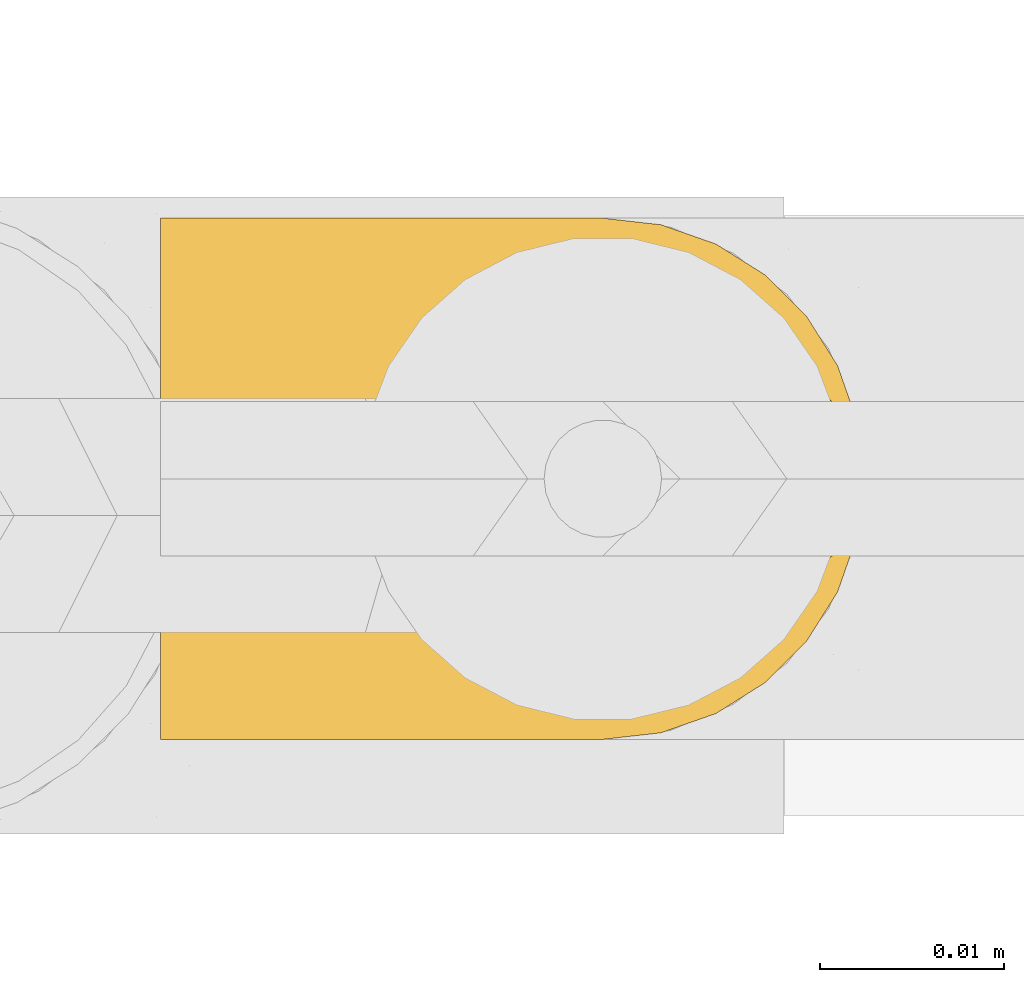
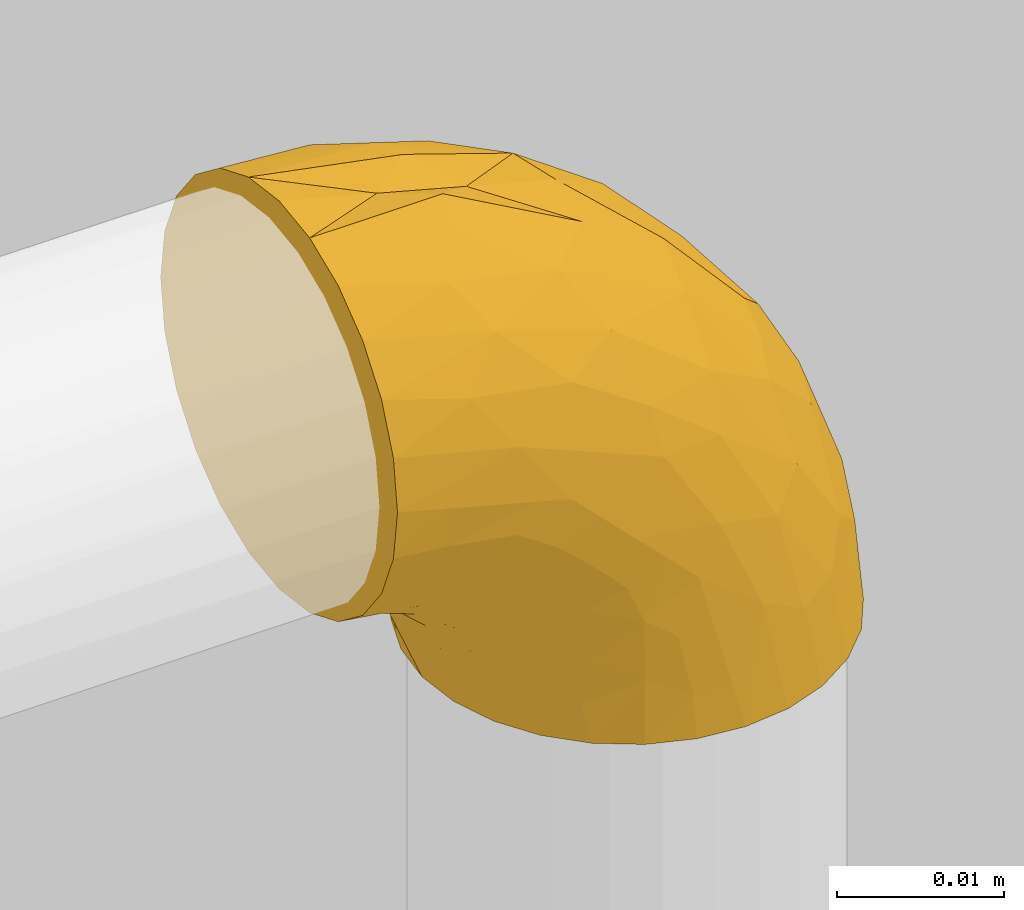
# One storey, part 11 of 30: 1 covering.
"""IFC2X3 building model written with IfcOpenShell, lengths in metres."""

from ifc_helpers import new_model, entity, si_unit, converted_unit, derived_unit, direction, frame, origin, place, context, subcontext, project, spatial, faceted_brep, material, type_object, element, save


model = new_model("IFC2X3")

# Units and contexts
model_context = context("Model", 3, precision=1e-05, world=origin(), true_north=direction((6.123031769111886e-17, 1.0)))
body_context = subcontext(model_context, "Body", "Model", "MODEL_VIEW")
ifc_project = project(units=[si_unit("LENGTHUNIT", "METRE"), si_unit("AREAUNIT", "SQUARE_METRE"), si_unit("VOLUMEUNIT", "CUBIC_METRE"), converted_unit("PLANEANGLEUNIT", "DEGREE", entity("IfcPlaneAngleMeasure", 0.017453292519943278), si_unit("PLANEANGLEUNIT", "RADIAN"), dimensions=[0, 0, 0, 0, 0, 0, 0]), si_unit("MASSUNIT", "GRAM", prefix="KILO"), derived_unit("MASSDENSITYUNIT", [(si_unit("MASSUNIT", "GRAM", prefix="KILO"), 1), (si_unit("LENGTHUNIT", "METRE"), -3)]), derived_unit("IONCONCENTRATIONUNIT", [(si_unit("MASSUNIT", "GRAM", prefix="KILO"), 1), (si_unit("LENGTHUNIT", "METRE"), -3)]), derived_unit("MOMENTOFINERTIAUNIT", [(si_unit("LENGTHUNIT", "METRE"), 4)]), si_unit("TIMEUNIT", "SECOND"), si_unit("FREQUENCYUNIT", "HERTZ"), si_unit("THERMODYNAMICTEMPERATUREUNIT", "DEGREE_CELSIUS"), derived_unit("THERMALTRANSMITTANCEUNIT", [(si_unit("MASSUNIT", "GRAM", prefix="KILO"), 1), (si_unit("THERMODYNAMICTEMPERATUREUNIT", "KELVIN"), -1), (si_unit("TIMEUNIT", "SECOND"), -3)]), derived_unit("THERMALCONDUCTANCEUNIT", [(si_unit("MASSUNIT", "GRAM", prefix="KILO"), 1), (si_unit("THERMODYNAMICTEMPERATUREUNIT", "KELVIN"), -1), (si_unit("TIMEUNIT", "SECOND"), -3), (si_unit("LENGTHUNIT", "METRE"), 1)]), derived_unit("VOLUMETRICFLOWRATEUNIT", [(si_unit("LENGTHUNIT", "METRE", prefix="DECI"), 3), (si_unit("TIMEUNIT", "SECOND"), -1)]), derived_unit("MASSFLOWRATEUNIT", [(si_unit("MASSUNIT", "GRAM", prefix="KILO"), 1), (si_unit("TIMEUNIT", "SECOND"), -1)]), derived_unit("ROTATIONALFREQUENCYUNIT", [(si_unit("TIMEUNIT", "SECOND"), -1)]), si_unit("ELECTRICCURRENTUNIT", "AMPERE"), si_unit("ELECTRICVOLTAGEUNIT", "VOLT"), si_unit("POWERUNIT", "WATT"), si_unit("FORCEUNIT", "NEWTON", prefix="KILO"), si_unit("ILLUMINANCEUNIT", "LUX"), si_unit("LUMINOUSFLUXUNIT", "LUMEN"), si_unit("LUMINOUSINTENSITYUNIT", "CANDELA"), si_unit("ENERGYUNIT", "JOULE"), derived_unit("USERDEFINED", [(si_unit("MASSUNIT", "GRAM", prefix="KILO"), -1), (si_unit("LENGTHUNIT", "METRE"), -2), (si_unit("TIMEUNIT", "SECOND"), 3), (si_unit("LUMINOUSFLUXUNIT", "LUMEN"), 1)]), derived_unit("USERDEFINED", [(si_unit("MASSUNIT", "GRAM", prefix="KILO"), 1), (si_unit("TIMEUNIT", "SECOND"), -3), (si_unit("LENGTHUNIT", "METRE"), 3), (si_unit("ELECTRICCURRENTUNIT", "AMPERE"), -2)]), derived_unit("SOUNDPOWERUNIT", [(si_unit("MASSUNIT", "GRAM", prefix="KILO"), 1), (si_unit("TIMEUNIT", "SECOND"), -3), (si_unit("LENGTHUNIT", "METRE"), 2)]), derived_unit("SOUNDPRESSUREUNIT", [(si_unit("MASSUNIT", "GRAM", prefix="KILO"), 1), (si_unit("LENGTHUNIT", "METRE"), -1), (si_unit("TIMEUNIT", "SECOND"), -2)]), derived_unit("LINEARVELOCITYUNIT", [(si_unit("LENGTHUNIT", "METRE"), 1), (si_unit("TIMEUNIT", "SECOND"), -1)]), si_unit("PRESSUREUNIT", "PASCAL"), derived_unit("USERDEFINED", [(si_unit("MASSUNIT", "GRAM", prefix="KILO"), 1), (si_unit("LENGTHUNIT", "METRE"), -2), (si_unit("TIMEUNIT", "SECOND"), -2)]), derived_unit("LINEARFORCEUNIT", [(si_unit("MASSUNIT", "GRAM", prefix="KILO"), 1), (si_unit("TIMEUNIT", "SECOND"), -2)]), derived_unit("PLANARFORCEUNIT", [(si_unit("MASSUNIT", "GRAM", prefix="KILO"), 1), (si_unit("LENGTHUNIT", "METRE"), -1), (si_unit("TIMEUNIT", "SECOND"), -2)]), derived_unit("SPECIFICHEATCAPACITYUNIT", [(si_unit("THERMODYNAMICTEMPERATUREUNIT", "KELVIN"), -1), (si_unit("LENGTHUNIT", "METRE"), 2), (si_unit("TIMEUNIT", "SECOND"), -2)]), derived_unit("HEATFLUXDENSITYUNIT", [(si_unit("MASSUNIT", "GRAM", prefix="KILO"), 1), (si_unit("TIMEUNIT", "SECOND"), -3)]), derived_unit("HEATINGVALUEUNIT", [(si_unit("LENGTHUNIT", "METRE"), 2), (si_unit("TIMEUNIT", "SECOND"), -2)]), derived_unit("VAPORPERMEABILITYUNIT", [(si_unit("LENGTHUNIT", "METRE"), -1), (si_unit("TIMEUNIT", "SECOND"), 1)]), derived_unit("DYNAMICVISCOSITYUNIT", [(si_unit("MASSUNIT", "GRAM", prefix="KILO"), 1), (si_unit("TIMEUNIT", "SECOND"), -1), (si_unit("LENGTHUNIT", "METRE"), -1)]), derived_unit("THERMALEXPANSIONCOEFFICIENTUNIT", [(si_unit("THERMODYNAMICTEMPERATUREUNIT", "KELVIN"), -1)]), derived_unit("MODULUSOFELASTICITYUNIT", [(si_unit("MASSUNIT", "GRAM", prefix="KILO"), 1), (si_unit("LENGTHUNIT", "METRE"), -1), (si_unit("TIMEUNIT", "SECOND"), -2)]), derived_unit("ISOTHERMALMOISTURECAPACITYUNIT", [(si_unit("MASSUNIT", "GRAM", prefix="KILO"), -1), (si_unit("LENGTHUNIT", "METRE"), 3)]), derived_unit("MOISTUREDIFFUSIVITYUNIT", [(si_unit("TIMEUNIT", "SECOND"), -1), (si_unit("LENGTHUNIT", "METRE"), 2)]), derived_unit("MASSPERLENGTHUNIT", [(si_unit("MASSUNIT", "GRAM", prefix="KILO"), 1), (si_unit("LENGTHUNIT", "METRE"), -1)]), derived_unit("THERMALRESISTANCEUNIT", [(si_unit("MASSUNIT", "GRAM", prefix="KILO"), -1), (si_unit("TIMEUNIT", "SECOND"), 3), (si_unit("THERMODYNAMICTEMPERATUREUNIT", "KELVIN"), 1)]), derived_unit("ACCELERATIONUNIT", [(si_unit("LENGTHUNIT", "METRE"), 1), (si_unit("TIMEUNIT", "SECOND"), -2)]), derived_unit("ANGULARVELOCITYUNIT", [(si_unit("TIMEUNIT", "SECOND"), -1), (si_unit("PLANEANGLEUNIT", "RADIAN"), 1)]), derived_unit("LINEARSTIFFNESSUNIT", [(si_unit("MASSUNIT", "GRAM", prefix="KILO"), 1), (si_unit("TIMEUNIT", "SECOND"), -2)]), derived_unit("WARPINGCONSTANTUNIT", [(si_unit("LENGTHUNIT", "METRE"), 6)]), derived_unit("LINEARMOMENTUNIT", [(si_unit("MASSUNIT", "GRAM", prefix="KILO"), 1), (si_unit("LENGTHUNIT", "METRE"), 1), (si_unit("TIMEUNIT", "SECOND"), -2)]), derived_unit("TORQUEUNIT", [(si_unit("MASSUNIT", "GRAM", prefix="KILO"), 1), (si_unit("LENGTHUNIT", "METRE"), 2), (si_unit("TIMEUNIT", "SECOND"), -2)])], contexts=[model_context])

# Site, building, storey
site_placement = place(None, origin())
site = spatial("IfcSite", under=ifc_project, at=site_placement, Name="Default", CompositionType="ELEMENT")
building_placement = place(site_placement, origin())
building = spatial("IfcBuilding", under=site, at=building_placement, CompositionType="ELEMENT")
storey_placement = place(building_placement, origin())
storey = spatial("IfcBuildingStorey", under=building, at=storey_placement, Name="Niveau 0", CompositionType="ELEMENT", Elevation=-1.949160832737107e-14)

# Covering
ifc_material = material(Name="Matériau du rendu 255-255-255")
covering_type = type_object("IfcCoveringType", Name="Isolation des canalisations:Par défaut", PredefinedType="INSULATION")
covering_placement = place(storey_placement, frame((-20.902603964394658, 1.361257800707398, 0.10913885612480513)))
element("IfcCovering", 1, at=covering_placement, inside=storey, type_object=covering_type, material=ifc_material, Name="Isolation des canalisations:Par défaut", ObjectType="Isolation des canalisations:Par défaut", PredefinedType="INSULATION", context=body_context, shape_type="Brep", body=[
    faceted_brep([(0.02885664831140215, 0.029638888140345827, -0.03989527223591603), (0.031858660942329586, 0.028587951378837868, -0.03989527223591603), (0.03455099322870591, 0.02689555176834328, -0.03989527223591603), (0.03679892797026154, 0.02464675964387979, -0.03989527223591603), (0.03849001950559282, 0.02195436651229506, -0.03989527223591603), (0.039539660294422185, 0.018953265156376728, -0.03989527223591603), (0.03989527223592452, 0.01579527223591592, -0.03989527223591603), (0.03953888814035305, 0.012633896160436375, -0.03989527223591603), (0.038487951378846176, 0.009631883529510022, -0.03989527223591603), (0.036795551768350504, 0.0069395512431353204, -0.03989527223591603), (0.0345467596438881, 0.004691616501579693, -0.03989527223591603), (0.03185436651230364, 0.0030005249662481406, -0.03989527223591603), (0.028853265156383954, 0.0019508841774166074, -0.03989527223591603), (0.025695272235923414, 0.0015952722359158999, -0.03989527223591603), (0.022533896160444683, 0.0019516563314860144, -0.03989527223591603), (0.019531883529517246, 0.0030025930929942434, -0.03989527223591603), (0.016839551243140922, 0.00469499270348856, -0.03989527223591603), (0.014591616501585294, 0.006943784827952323, -0.03989527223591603), (0.01290052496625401, 0.009636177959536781, -0.03989527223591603), (0.011850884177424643, 0.012637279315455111, -0.03989527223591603), (0.011495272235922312, 0.01579527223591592, -0.03989527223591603), (0.01185165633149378, 0.01895664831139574, -0.03989527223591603), (0.012902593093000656, 0.02195866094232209, -0.03989527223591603), (0.014594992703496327, 0.02465099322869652, -0.03989527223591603), (0.016843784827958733, 0.02689892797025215, -0.03989527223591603), (0.019536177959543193, 0.0285900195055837, -0.03989527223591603), (0.02253727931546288, 0.029639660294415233, -0.03989527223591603), (0.025695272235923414, 0.02999527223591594, -0.03989527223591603), (0.0015952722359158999, 0.012120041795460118, -0.0295114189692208), (0.0015952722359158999, 0.00869527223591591, -0.02809283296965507), (0.0015952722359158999, 0.005754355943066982, -0.025836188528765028), (0.0015952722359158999, 0.0034977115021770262, -0.022895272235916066), (0.0015952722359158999, 0.002079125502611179, -0.01947050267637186), (0.0015952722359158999, 0.0015952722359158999, -0.015795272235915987), (0.0015952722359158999, 0.002079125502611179, -0.012120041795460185), (0.0015952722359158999, 0.0034977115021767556, -0.008695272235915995), (0.0015952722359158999, 0.005754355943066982, -0.005754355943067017), (0.0015952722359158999, 0.00869527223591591, -0.0034977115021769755), (0.0015952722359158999, 0.012120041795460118, -0.002079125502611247), (0.0015952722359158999, 0.01579527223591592, -0.0015952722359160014), (0.0015952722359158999, 0.019470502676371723, -0.002079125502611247), (0.0015952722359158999, 0.02289527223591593, -0.0034977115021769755), (0.0015952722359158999, 0.025836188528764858, -0.005754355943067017), (0.0015952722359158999, 0.028092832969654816, -0.008695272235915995), (0.0015952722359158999, 0.029511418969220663, -0.012120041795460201), (0.0015952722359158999, 0.02999527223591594, -0.015795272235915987), (0.0015952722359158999, 0.029511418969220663, -0.019470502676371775), (0.0015952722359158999, 0.028092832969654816, -0.022895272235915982), (0.0015952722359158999, 0.025836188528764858, -0.02583618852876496), (0.0015952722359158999, 0.02289527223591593, -0.028092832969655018), (0.0015952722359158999, 0.019470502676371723, -0.029511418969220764), (0.0015952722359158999, 0.01579527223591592, -0.02999527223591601), (0.02704820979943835, 0.029733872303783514, -0.031466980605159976), (0.01155834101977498, 0.018166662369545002, -0.00312038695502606), (0.008375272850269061, 0.01579527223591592, -0.0034119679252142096), (0.014560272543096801, 0.01579527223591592, -0.005069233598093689), (0.014682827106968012, 0.028252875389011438, -0.011886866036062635), (0.010357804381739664, 0.02654090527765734, -0.007682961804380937), (0.01863458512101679, 0.026180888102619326, -0.010723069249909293), (0.024053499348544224, 0.02966220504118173, -0.024625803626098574), (0.022466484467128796, 0.02999527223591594, -0.027845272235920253), (0.0380723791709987, 0.02008831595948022, -0.030629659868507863), (0.03458658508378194, 0.022434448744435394, -0.023927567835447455), (0.03564178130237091, 0.01950717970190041, -0.023459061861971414), (0.020408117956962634, 0.02934471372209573, -0.01868835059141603), (0.018055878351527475, 0.02999527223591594, -0.023434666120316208), (0.01636472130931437, 0.023549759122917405, -0.007069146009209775), (0.010797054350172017, 0.02080360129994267, -0.0036578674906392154), (0.020172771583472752, 0.019923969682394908, -0.007105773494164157), (0.0074916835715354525, 0.028644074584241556, -0.01033204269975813), (0.010237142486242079, 0.029677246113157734, -0.014222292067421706), (0.02558294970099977, 0.022802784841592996, -0.012450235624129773), (0.013645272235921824, 0.02999527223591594, -0.019024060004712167), (0.010976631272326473, 0.02999527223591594, -0.01830899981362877), (0.008307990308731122, 0.02999527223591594, -0.017593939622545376), (0.0076202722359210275, 0.02999527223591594, -0.017409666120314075), (0.0049516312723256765, 0.02999527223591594, -0.01669460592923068), (0.025175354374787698, 0.028908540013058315, -0.022088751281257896), (0.021556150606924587, 0.02801894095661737, -0.01575171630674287), (0.026742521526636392, 0.027726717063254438, -0.02043204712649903), (0.03307723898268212, 0.02742768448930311, -0.0329260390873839), (0.034991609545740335, 0.02526771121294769, -0.030551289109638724), (0.0372977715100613, 0.02297391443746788, -0.03305521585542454), (0.03642131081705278, 0.01579527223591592, -0.026930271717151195), (0.03039575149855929, 0.028931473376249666, -0.03354339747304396), (0.02873854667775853, 0.02856587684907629, -0.02640905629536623), (0.008485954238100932, 0.02404225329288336, -0.004907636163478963), (0.02479593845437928, 0.02999527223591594, -0.03653891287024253), (0.024080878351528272, 0.02999527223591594, -0.03387027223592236), (0.023896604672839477, 0.02999527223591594, -0.033182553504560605), (0.023181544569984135, 0.02999527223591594, -0.030513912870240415), (0.0312190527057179, 0.02659257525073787, -0.024636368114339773), (0.030558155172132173, 0.024430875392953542, -0.019588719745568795), (0.03807857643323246, 0.01579527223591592, -0.03311527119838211), (0.025554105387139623, 0.026199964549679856, -0.016105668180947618), (0.02775465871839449, 0.01579527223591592, -0.013735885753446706), (0.03476404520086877, 0.01579527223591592, -0.02074527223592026), (0.031643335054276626, 0.019534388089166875, -0.01696345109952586), (0.02074527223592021, 0.01579527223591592, -0.00672649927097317), (0.02639706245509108, 0.01990856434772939, -0.011513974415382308), (0.031308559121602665, 0.02209913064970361, -0.01814369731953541), (0.01585057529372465, 0.02999527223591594, -0.02122936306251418), (0.02026118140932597, 0.02999527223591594, -0.02563996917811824), (0.019055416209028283, 0.029377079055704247, -0.030232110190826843), (0.01941299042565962, 0.0288294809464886, -0.03504783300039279), (0.0163241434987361, 0.02753992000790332, -0.033347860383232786), (0.01008373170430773, 0.029670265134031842, -0.0206006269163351), (0.005334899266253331, 0.029488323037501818, -0.01990237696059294), (0.006124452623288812, 0.025730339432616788, -0.026696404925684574), (0.008851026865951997, 0.02535629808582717, -0.028391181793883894), (0.00699704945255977, 0.022650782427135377, -0.02955694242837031), (0.011972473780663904, 0.028333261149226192, -0.02588636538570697), (0.012855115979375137, 0.029588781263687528, -0.022493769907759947), (0.015604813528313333, 0.02950996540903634, -0.025039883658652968), (0.003990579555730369, 0.021863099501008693, -0.028891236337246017), (0.006747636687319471, 0.02905725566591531, -0.0215816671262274), (0.00477823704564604, 0.02758119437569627, -0.024031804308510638), (0.007441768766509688, 0.019266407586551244, -0.03137801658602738), (0.008595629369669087, 0.01579527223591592, -0.03289491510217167), (0.005095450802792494, 0.01579527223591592, -0.03144509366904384), (0.009650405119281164, 0.01983888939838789, -0.033178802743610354), (0.022275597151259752, 0.02964120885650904, -0.036552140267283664), (0.010954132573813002, 0.018973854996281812, -0.03568980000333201), (0.011348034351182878, 0.021894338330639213, -0.03423455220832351), (0.012210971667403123, 0.021143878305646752, -0.03722732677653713), (0.01382361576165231, 0.02452710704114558, -0.03578073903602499), (0.01204534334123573, 0.024465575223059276, -0.03241002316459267), (0.009717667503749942, 0.02276166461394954, -0.0314376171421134), (0.01625427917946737, 0.026659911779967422, -0.036925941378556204), (0.021842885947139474, 0.029708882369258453, -0.03340468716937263), (0.004526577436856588, 0.018798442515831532, -0.030103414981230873), (0.010045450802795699, 0.01579527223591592, -0.03639509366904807), (0.015405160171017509, 0.0284623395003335, -0.028851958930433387), (0.01410895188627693, 0.026609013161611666, -0.031813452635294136), (0.008820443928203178, 0.02746848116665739, -0.0256033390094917), (0.008460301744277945, 0.028613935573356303, -0.023265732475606), (0.01778048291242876, 0.029539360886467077, -0.027264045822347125), (0.011880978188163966, 0.026220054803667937, -0.029734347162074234), (0.009715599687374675, 0.008832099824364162, -0.031438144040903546), (0.007441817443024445, 0.012323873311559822, -0.03137796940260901), (0.009649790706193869, 0.011756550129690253, -0.033180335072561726), (0.024795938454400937, 0.0015952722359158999, -0.03653891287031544), (0.0048062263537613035, 0.011626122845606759, -0.029871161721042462), (0.010976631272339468, 0.0015952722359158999, -0.018308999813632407), (0.010083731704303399, 0.001920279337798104, -0.02060062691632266), (0.013645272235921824, 0.0015952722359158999, -0.019024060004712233), (0.004199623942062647, 0.009216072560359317, -0.028677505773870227), (0.005334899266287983, 0.002102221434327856, -0.01990237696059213), (0.0049516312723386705, 0.0015952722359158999, -0.016694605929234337), (0.01187705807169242, 0.005375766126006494, -0.02973849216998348), (0.015398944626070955, 0.0031321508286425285, -0.02885664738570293), (0.011966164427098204, 0.0032613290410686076, -0.025891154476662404), (0.008460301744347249, 0.002976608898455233, -0.023265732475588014), (0.006747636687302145, 0.0025332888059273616, -0.02158166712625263), (0.0047782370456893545, 0.004009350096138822, -0.02403180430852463), (0.006123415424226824, 0.005860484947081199, -0.02669633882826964), (0.008848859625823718, 0.006235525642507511, -0.028391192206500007), (0.006993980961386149, 0.008940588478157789, -0.02955585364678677), (0.012209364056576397, 0.010451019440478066, -0.03722818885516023), (0.01095411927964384, 0.012619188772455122, -0.03569117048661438), (0.019407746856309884, 0.0027633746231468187, -0.03504891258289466), (0.022272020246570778, 0.0019500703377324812, -0.03655023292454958), (0.013820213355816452, 0.007068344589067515, -0.035782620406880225), (0.024080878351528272, 0.0015952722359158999, -0.03387027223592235), (0.02389660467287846, 0.0015952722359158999, -0.0331825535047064), (0.01905004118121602, 0.0022143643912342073, -0.030228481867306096), (0.016318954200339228, 0.004054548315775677, -0.033350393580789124), (0.016249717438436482, 0.004934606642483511, -0.03692719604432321), (0.01134650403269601, 0.009701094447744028, -0.034236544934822), (0.01204243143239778, 0.007130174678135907, -0.032412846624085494), (0.0088163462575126, 0.004122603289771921, -0.025602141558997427), (0.012859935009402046, 0.002001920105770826, -0.022497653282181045), (0.02318154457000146, 0.0015952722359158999, -0.03051391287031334), (0.022466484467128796, 0.0015952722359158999, -0.027845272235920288), (0.021177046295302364, 0.0019021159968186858, -0.03186606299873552), (0.01410454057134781, 0.004986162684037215, -0.0318166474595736), (0.017767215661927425, 0.002056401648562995, -0.027279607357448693), (0.018055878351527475, 0.0015952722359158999, -0.02343466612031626), (0.01560782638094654, 0.0020828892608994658, -0.025054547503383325), (0.020261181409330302, 0.0015952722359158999, -0.025639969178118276), (0.01585057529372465, 0.0015952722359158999, -0.02122936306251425), (0.008307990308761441, 0.0015952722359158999, -0.017593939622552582), (0.0076202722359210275, 0.0015952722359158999, -0.017409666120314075), (0.010356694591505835, 0.0050495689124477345, -0.00768274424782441), (0.014679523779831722, 0.0033374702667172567, -0.01188572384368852), (0.018634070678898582, 0.005409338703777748, -0.010723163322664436), (0.0330731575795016, 0.004160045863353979, -0.03292620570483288), (0.010237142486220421, 0.0019132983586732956, -0.014222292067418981), (0.025592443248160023, 0.008788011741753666, -0.012458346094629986), (0.03164297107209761, 0.012054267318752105, -0.016963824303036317), (0.02646632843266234, 0.012737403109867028, -0.01120882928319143), (0.03055609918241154, 0.007155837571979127, -0.019590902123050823), (0.031215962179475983, 0.004994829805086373, -0.024638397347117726), (0.034988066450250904, 0.00631902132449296, -0.030551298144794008), (0.00748967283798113, 0.0029463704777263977, -0.010331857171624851), (0.010798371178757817, 0.010787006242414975, -0.0036581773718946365), (0.016368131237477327, 0.008041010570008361, -0.007070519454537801), (0.020173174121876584, 0.011666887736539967, -0.007105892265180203), (0.028735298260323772, 0.0030229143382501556, -0.026410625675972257), (0.02498476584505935, 0.00344376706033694, -0.01938921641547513), (0.024053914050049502, 0.0019283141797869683, -0.024626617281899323), (0.03807109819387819, 0.01149853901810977, -0.03062937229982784), (0.027046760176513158, 0.0018563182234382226, -0.03146839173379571), (0.008487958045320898, 0.007548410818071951, -0.004907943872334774), (0.037295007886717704, 0.008612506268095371, -0.03305363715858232), (0.034584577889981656, 0.009151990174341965, -0.02392840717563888), (0.02041042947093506, 0.002246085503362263, -0.018689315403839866), (0.02000326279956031, 0.003193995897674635, -0.015393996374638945), (0.011558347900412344, 0.013423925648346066, -0.0031203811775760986), (0.025551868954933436, 0.005387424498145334, -0.01610823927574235), (0.030392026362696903, 0.002657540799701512, -0.03354382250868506), (0.03582275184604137, 0.012727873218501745, -0.023469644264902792), (0.03130512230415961, 0.009488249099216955, -0.018141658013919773)], [[[0, 1, 2, 3, 4, 5, 6, 7, 8, 9, 10, 11, 12, 13, 14, 15, 16, 17, 18, 19, 20, 21, 22, 23, 24, 25, 26, 27]], [[28, 29, 30, 31, 32, 33, 34, 35, 36, 37, 38, 39, 40, 41, 42, 43, 44, 45, 46, 47, 48, 49, 50, 51]], [[27, 52, 0]], [[53, 54, 55]], [[56, 57, 58]], [[59, 52, 60]], [[61, 62, 63]], [[64, 59, 65]], [[66, 67, 68]], [[57, 56, 69]], [[70, 45, 44]], [[43, 42, 57]], [[66, 68, 71]], [[70, 72, 73, 74, 75, 76, 45]], [[44, 43, 69]], [[77, 78, 79]], [[80, 81, 2]], [[41, 40, 67]], [[82, 62, 61]], [[2, 81, 3]], [[63, 83, 61]], [[61, 5, 4]], [[84, 52, 85]], [[40, 39, 54]], [[58, 78, 56]], [[66, 86, 67]], [[86, 42, 41]], [[52, 27, 87, 88, 89, 90, 60]], [[91, 92, 81]], [[70, 64, 72]], [[80, 2, 1]], [[93, 5, 61]], [[1, 0, 84]], [[93, 6, 5]], [[81, 80, 91]], [[4, 82, 61]], [[54, 53, 40]], [[82, 4, 3]], [[68, 67, 53]], [[86, 57, 42]], [[58, 94, 78]], [[69, 70, 44]], [[64, 70, 56]], [[78, 64, 56]], [[85, 52, 59]], [[3, 81, 82]], [[62, 82, 81]], [[84, 80, 1]], [[91, 80, 85]], [[79, 91, 85]], [[91, 94, 92]], [[95, 96, 97]], [[94, 58, 71]], [[98, 95, 99]], [[99, 95, 97]], [[92, 62, 81]], [[92, 100, 62]], [[68, 99, 71]], [[52, 84, 0]], [[80, 84, 85]], [[67, 86, 41]], [[57, 86, 66]], [[57, 66, 58]], [[71, 58, 66]], [[64, 65, 101, 72]], [[77, 79, 85]], [[59, 60, 102, 65]], [[94, 71, 92]], [[71, 99, 100]], [[68, 53, 55]], [[98, 68, 55]], [[40, 53, 67]], [[71, 100, 92]], [[63, 100, 97]], [[57, 69, 43]], [[70, 69, 56]], [[100, 63, 62]], [[83, 93, 61]], [[79, 78, 94]], [[91, 79, 94]], [[85, 59, 77]], [[59, 64, 77]], [[78, 77, 64]], [[99, 68, 98]], [[100, 99, 97]], [[97, 96, 63]], [[83, 63, 96]], [[103, 104, 105]], [[72, 106, 73]], [[47, 46, 107]], [[107, 46, 76]], [[108, 109, 110]], [[111, 112, 113]], [[108, 110, 114]], [[47, 115, 116]], [[117, 118, 119]], [[108, 49, 48]], [[118, 117, 120]], [[25, 121, 26]], [[49, 114, 50]], [[122, 123, 124]], [[124, 125, 22]], [[126, 123, 127]], [[128, 104, 24]], [[129, 103, 60]], [[24, 104, 25]], [[27, 26, 87]], [[123, 120, 127]], [[130, 117, 119]], [[107, 76, 75, 74, 73]], [[131, 118, 122, 20]], [[105, 132, 103]], [[21, 124, 22]], [[23, 22, 125]], [[121, 87, 26]], [[126, 133, 125]], [[130, 110, 117]], [[123, 122, 120]], [[128, 24, 23]], [[50, 130, 51]], [[128, 125, 105]], [[129, 121, 104]], [[116, 108, 48]], [[134, 135, 111]], [[135, 112, 111]], [[127, 120, 117]], [[21, 20, 122]], [[125, 124, 123]], [[21, 122, 124]], [[105, 133, 132]], [[136, 103, 132]], [[111, 132, 137]], [[113, 136, 132]], [[111, 137, 109]], [[112, 106, 72]], [[118, 120, 122]], [[127, 117, 110]], [[109, 127, 110]], [[126, 127, 137]], [[133, 126, 137]], [[125, 123, 126]], [[132, 133, 137]], [[125, 133, 105]], [[125, 128, 23]], [[104, 128, 105]], [[113, 101, 65]], [[101, 113, 112]], [[102, 136, 65]], [[132, 111, 113]], [[103, 102, 60]], [[104, 121, 25]], [[121, 89, 88, 87]], [[129, 60, 90, 89]], [[121, 129, 89]], [[115, 107, 106]], [[106, 112, 135]], [[73, 106, 107]], [[106, 135, 115]], [[116, 115, 135]], [[47, 107, 115]], [[116, 135, 134]], [[47, 116, 48]], [[51, 130, 119]], [[130, 50, 114]], [[112, 72, 101]], [[108, 114, 49]], [[130, 114, 110]], [[65, 136, 113]], [[102, 103, 136]], [[46, 45, 76]], [[109, 108, 134]], [[127, 109, 137]], [[109, 134, 111]], [[116, 134, 108]], [[103, 129, 104]], [[138, 139, 140]], [[14, 13, 141]], [[119, 142, 51]], [[139, 142, 119]], [[143, 144, 145]], [[142, 146, 28]], [[147, 148, 32]], [[149, 150, 151]], [[152, 153, 154]], [[118, 139, 119]], [[155, 29, 146]], [[138, 156, 157]], [[158, 159, 19]], [[157, 139, 138]], [[18, 158, 19]], [[160, 15, 161]], [[17, 162, 18]], [[161, 141, 163, 164]], [[160, 165, 166]], [[147, 32, 31]], [[17, 16, 167]], [[168, 158, 162]], [[160, 166, 167]], [[149, 138, 169]], [[170, 156, 151]], [[151, 171, 152]], [[172, 173, 174, 164]], [[14, 161, 15]], [[155, 30, 29]], [[160, 16, 15]], [[19, 159, 20]], [[118, 131, 20, 159]], [[169, 175, 149]], [[167, 162, 17]], [[174, 165, 160]], [[156, 155, 157]], [[155, 170, 154]], [[150, 166, 165]], [[118, 159, 140]], [[142, 139, 157]], [[162, 158, 18]], [[159, 158, 168]], [[159, 168, 140]], [[176, 177, 178]], [[150, 149, 175]], [[176, 178, 150]], [[171, 145, 144]], [[165, 179, 176]], [[170, 151, 152]], [[140, 168, 138]], [[118, 140, 139]], [[169, 138, 168]], [[156, 138, 149]], [[168, 162, 169]], [[175, 162, 166]], [[162, 175, 169]], [[150, 175, 166]], [[160, 167, 16]], [[162, 167, 166]], [[178, 171, 151]], [[178, 180, 171]], [[151, 150, 178]], [[165, 173, 179]], [[176, 150, 165]], [[141, 161, 14]], [[174, 173, 165]], [[174, 161, 164]], [[152, 144, 153]], [[147, 143, 181, 182, 148]], [[147, 153, 144]], [[147, 144, 143]], [[171, 144, 152]], [[147, 31, 153]], [[154, 31, 30]], [[31, 154, 153]], [[155, 154, 30]], [[146, 142, 157]], [[142, 28, 51]], [[155, 146, 157]], [[28, 146, 29]], [[180, 178, 177]], [[180, 145, 171]], [[177, 176, 179]], [[148, 33, 32]], [[151, 156, 149]], [[154, 170, 152]], [[156, 170, 155]], [[161, 174, 160]], [[183, 184, 185]], [[10, 186, 11]], [[187, 33, 148, 182, 181, 143, 145]], [[188, 189, 190]], [[191, 192, 193]], [[34, 194, 35]], [[195, 38, 37]], [[195, 196, 197]], [[194, 183, 35]], [[54, 39, 38]], [[183, 36, 35]], [[98, 55, 197]], [[198, 199, 200]], [[8, 7, 201]], [[200, 173, 202]], [[203, 195, 37]], [[13, 12, 202]], [[36, 203, 37]], [[9, 193, 10]], [[204, 205, 193]], [[187, 206, 207]], [[193, 186, 10]], [[7, 6, 93]], [[55, 208, 197]], [[186, 192, 198]], [[201, 204, 8]], [[192, 199, 198]], [[192, 191, 209]], [[202, 173, 172, 164, 163, 141, 13]], [[7, 93, 201]], [[210, 202, 12]], [[204, 9, 8]], [[33, 187, 34]], [[11, 210, 12]], [[83, 96, 211]], [[207, 206, 199]], [[38, 195, 208]], [[207, 185, 184]], [[203, 183, 196]], [[206, 187, 145]], [[194, 187, 184]], [[206, 177, 200]], [[206, 200, 199]], [[205, 204, 201]], [[193, 9, 204]], [[192, 186, 193]], [[210, 186, 198]], [[191, 193, 205]], [[199, 192, 209]], [[196, 185, 188]], [[190, 98, 197]], [[197, 196, 188]], [[95, 189, 96]], [[211, 205, 201]], [[190, 189, 95]], [[212, 188, 191]], [[186, 210, 11]], [[202, 210, 198]], [[183, 203, 36]], [[195, 203, 196]], [[188, 185, 209]], [[196, 183, 185]], [[198, 200, 202]], [[212, 191, 205]], [[206, 145, 180, 177]], [[200, 177, 179, 173]], [[188, 209, 191]], [[38, 208, 54]], [[54, 208, 55]], [[197, 208, 195]], [[205, 189, 212]], [[188, 212, 189]], [[187, 194, 34]], [[183, 194, 184]], [[189, 211, 96]], [[201, 93, 83]], [[209, 185, 207]], [[207, 199, 209]], [[187, 207, 184]], [[98, 190, 95]], [[188, 190, 197]], [[205, 211, 189]], [[83, 211, 201]]]),
])

save(model, "model.ifc")
